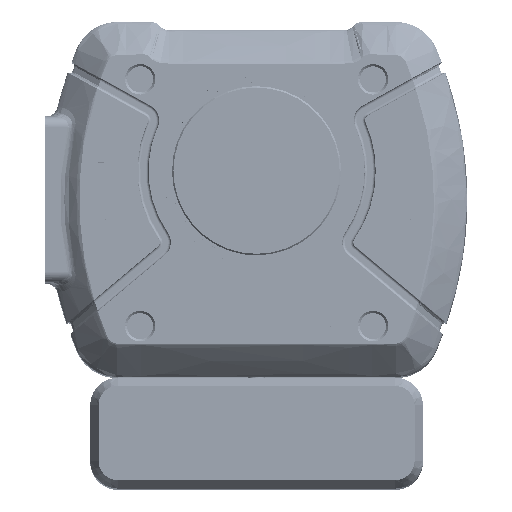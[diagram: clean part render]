
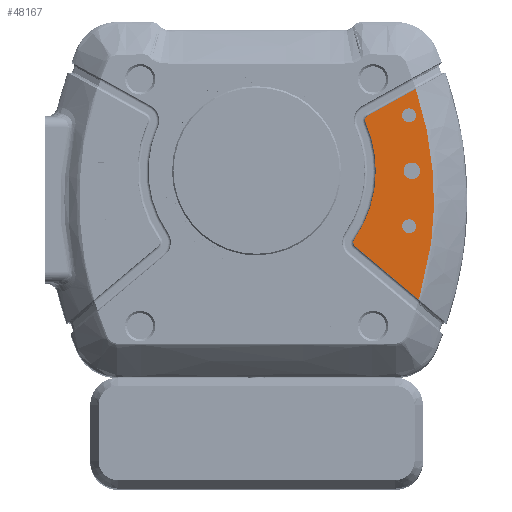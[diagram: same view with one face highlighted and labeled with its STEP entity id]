
A CAD part, top view. The second image highlights one B-rep face of the part: STEP entity #48167.
In plain terms, the highlighted planar face has unit normal (0, 0, 1).
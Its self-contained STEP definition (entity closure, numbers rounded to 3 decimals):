
#12314 = DIRECTION ( 'NONE',  ( 1., 0., 0. ) ) ;
#19365 = EDGE_CURVE ( 'NONE', #370967, #59314, #331686, .T. ) ;
#24546 = CARTESIAN_POINT ( 'NONE',  ( 21.5, 0., 13.007 ) ) ;
#34387 = VERTEX_POINT ( 'NONE', #141833 ) ;
#38254 = DIRECTION ( 'NONE',  ( 0., 0., 1. ) ) ;
#38704 = DIRECTION ( 'NONE',  ( 1., 0., 0. ) ) ;
#44936 = CARTESIAN_POINT ( 'NONE',  ( 29.285, -23.267, 13.007 ) ) ;
#45365 = PLANE ( 'NONE',  #227824 ) ;
#46050 = DIRECTION ( 'NONE',  ( 0., 0., 1. ) ) ;
#48167 = ADVANCED_FACE ( 'NONE', ( #79063, #182442, #394380, #223016 ), #45365, .T. ) ;
#48726 = CARTESIAN_POINT ( 'NONE',  ( 18.453, -12.873, 13.007 ) ) ;
#48976 = CIRCLE ( 'NONE', #386894, 1. ) ;
#52347 = EDGE_LOOP ( 'NONE', ( #193371, #180342 ) ) ;
#52464 = ORIENTED_EDGE ( 'NONE', *, *, #268177, .F. ) ;
#54133 = CARTESIAN_POINT ( 'NONE',  ( 0., -5.16, 13.007 ) ) ;
#55309 = AXIS2_PLACEMENT_3D ( 'NONE', #247569, #38254, #281384 ) ;
#56147 = ORIENTED_EDGE ( 'NONE', *, *, #394629, .T. ) ;
#59314 = VERTEX_POINT ( 'NONE', #151709 ) ;
#59500 = EDGE_CURVE ( 'NONE', #174583, #370967, #378997, .T. ) ;
#63692 = ORIENTED_EDGE ( 'NONE', *, *, #339501, .T. ) ;
#63991 = AXIS2_PLACEMENT_3D ( 'NONE', #281950, #345214, #209882 ) ;
#72188 = DIRECTION ( 'NONE',  ( 0.875, 0.485, 0. ) ) ;
#72441 = VERTEX_POINT ( 'NONE', #444518 ) ;
#79063 = FACE_BOUND ( 'NONE', #52347, .T. ) ;
#81231 = DIRECTION ( 'NONE',  ( 0., 0., 1. ) ) ;
#88441 = EDGE_CURVE ( 'NONE', #326863, #311705, #111945, .T. ) ;
#101220 = VERTEX_POINT ( 'NONE', #333342 ) ;
#108261 = CARTESIAN_POINT ( 'NONE',  ( 20.086, 9.99, 13.007 ) ) ;
#109052 = CARTESIAN_POINT ( 'NONE',  ( 28.75, 10., 13.007 ) ) ;
#109652 = VECTOR ( 'NONE', #320103, 1000. ) ;
#111945 = CIRCLE ( 'NONE', #421197, 1.25 ) ;
#116923 = DIRECTION ( 'NONE',  ( -1., 0., 0. ) ) ;
#118609 = EDGE_CURVE ( 'NONE', #161307, #34387, #286595, .T. ) ;
#124362 = DIRECTION ( 'NONE',  ( -1., 0., 0. ) ) ;
#141833 = CARTESIAN_POINT ( 'NONE',  ( 26.5, 0., 13.007 ) ) ;
#148237 = CARTESIAN_POINT ( 'NONE',  ( 30.803, 8.419, 13.007 ) ) ;
#151709 = CARTESIAN_POINT ( 'NONE',  ( 17.811, -13.639, 13.007 ) ) ;
#155179 = VERTEX_POINT ( 'NONE', #231480 ) ;
#157983 = AXIS2_PLACEMENT_3D ( 'NONE', #209742, #173542, #38704 ) ;
#161307 = VERTEX_POINT ( 'NONE', #294714 ) ;
#165921 = CARTESIAN_POINT ( 'NONE',  ( 20.571, 9.116, 13.007 ) ) ;
#168900 = CARTESIAN_POINT ( 'NONE',  ( -1.703, -2.087, 13.007 ) ) ;
#171336 = CIRCLE ( 'NONE', #423507, 1.5 ) ;
#171434 = EDGE_CURVE ( 'NONE', #311705, #326863, #368998, .T. ) ;
#171688 = DIRECTION ( 'NONE',  ( 0., 0., 1. ) ) ;
#173542 = DIRECTION ( 'NONE',  ( 0., 0., 1. ) ) ;
#174583 = VERTEX_POINT ( 'NONE', #24546 ) ;
#179558 = CIRCLE ( 'NONE', #157983, 1.25 ) ;
#180342 = ORIENTED_EDGE ( 'NONE', *, *, #202497, .F. ) ;
#182442 = FACE_BOUND ( 'NONE', #428911, .T. ) ;
#183170 = CARTESIAN_POINT ( 'NONE',  ( 28., 0., 13.007 ) ) ;
#186010 = AXIS2_PLACEMENT_3D ( 'NONE', #253015, #356665, #124362 ) ;
#191511 = EDGE_CURVE ( 'NONE', #402795, #101220, #378613, .T. ) ;
#193371 = ORIENTED_EDGE ( 'NONE', *, *, #304715, .F. ) ;
#202497 = EDGE_CURVE ( 'NONE', #155179, #72441, #179558, .T. ) ;
#203530 = EDGE_LOOP ( 'NONE', ( #444791, #52464 ) ) ;
#208296 = VERTEX_POINT ( 'NONE', #427294 ) ;
#209742 = CARTESIAN_POINT ( 'NONE',  ( 27.5, -10., 13.007 ) ) ;
#209882 = DIRECTION ( 'NONE',  ( 1., 0., 0. ) ) ;
#215409 = DIRECTION ( 'NONE',  ( 0., 0., 1. ) ) ;
#222578 = CARTESIAN_POINT ( 'NONE',  ( 32.089, -10.58, 13.007 ) ) ;
#223016 = FACE_OUTER_BOUND ( 'NONE', #306143, .T. ) ;
#227285 = CARTESIAN_POINT ( 'NONE',  ( 27.5, 10., 13.007 ) ) ;
#227824 = AXIS2_PLACEMENT_3D ( 'NONE', #54133, #81231, #430406 ) ;
#231480 = CARTESIAN_POINT ( 'NONE',  ( 26.25, -10., 13.007 ) ) ;
#243321 = ORIENTED_EDGE ( 'NONE', *, *, #407488, .T. ) ;
#247569 = CARTESIAN_POINT ( 'NONE',  ( 27.5, -10., 13.007 ) ) ;
#251418 = DIRECTION ( 'NONE',  ( 1., 0., 0. ) ) ;
#253015 = CARTESIAN_POINT ( 'NONE',  ( 0., 0., 13.007 ) ) ;
#254101 = ORIENTED_EDGE ( 'NONE', *, *, #59500, .T. ) ;
#268177 = EDGE_CURVE ( 'NONE', #34387, #161307, #171336, .T. ) ;
#268706 = CARTESIAN_POINT ( 'NONE',  ( 26.25, 10., 13.007 ) ) ;
#281384 = DIRECTION ( 'NONE',  ( 1., 0., 0. ) ) ;
#281950 = CARTESIAN_POINT ( 'NONE',  ( 28., 0., 13.007 ) ) ;
#286595 = CIRCLE ( 'NONE', #63991, 1.5 ) ;
#288046 = CARTESIAN_POINT ( 'NONE',  ( 28.711, 14.771, 13.007 ) ) ;
#294714 = CARTESIAN_POINT ( 'NONE',  ( 29.5, 0., 13.007 ) ) ;
#295231 = EDGE_CURVE ( 'NONE', #438139, #59314, #383191, .T. ) ;
#304715 = EDGE_CURVE ( 'NONE', #72441, #155179, #371648, .T. ) ;
#306143 = EDGE_LOOP ( 'NONE', ( #373057, #63692, #56147, #254101, #369635, #325856, #243321 ) ) ;
#309422 = CARTESIAN_POINT ( 'NONE',  ( 27.5, 10., 13.007 ) ) ;
#311705 = VERTEX_POINT ( 'NONE', #109052 ) ;
#319665 = CARTESIAN_POINT ( 'NONE',  ( 31.186, -16.917, 13.007 ) ) ;
#320103 = DIRECTION ( 'NONE',  ( -0.766, 0.643, 0. ) ) ;
#325856 = ORIENTED_EDGE ( 'NONE', *, *, #295231, .F. ) ;
#326383 = DIRECTION ( 'NONE',  ( 0., 0., -1. ) ) ;
#326863 = VERTEX_POINT ( 'NONE', #268706 ) ;
#328603 = CARTESIAN_POINT ( 'NONE',  ( 0., 0., 13.007 ) ) ;
#331686 = CIRCLE ( 'NONE', #389314, 1. ) ;
#333342 = CARTESIAN_POINT ( 'NONE',  ( 28.711, 14.771, 13.007 ) ) ;
#339501 = EDGE_CURVE ( 'NONE', #402795, #208296, #48976, .T. ) ;
#345214 = DIRECTION ( 'NONE',  ( 0., 0., 1. ) ) ;
#347610 = DIRECTION ( 'NONE',  ( 1., 0., 0. ) ) ;
#351995 = ORIENTED_EDGE ( 'NONE', *, *, #171434, .F. ) ;
#356665 = DIRECTION ( 'NONE',  ( 0., 0., -1. ) ) ;
#360675 = CARTESIAN_POINT ( 'NONE',  ( 29.285, -23.267, 13.007 ) ) ;
#361944 = AXIS2_PLACEMENT_3D ( 'NONE', #309422, #171688, #347610 ) ;
#368913 = DIRECTION ( 'NONE',  ( 0., 0., 1. ) ) ;
#368998 = CIRCLE ( 'NONE', #361944, 1.25 ) ;
#369635 = ORIENTED_EDGE ( 'NONE', *, *, #19365, .T. ) ;
#370967 = VERTEX_POINT ( 'NONE', #408772 ) ;
#371648 = CIRCLE ( 'NONE', #55309, 1.25 ) ;
#373057 = ORIENTED_EDGE ( 'NONE', *, *, #191511, .F. ) ;
#378613 = LINE ( 'NONE', #168900, #389382 ) ;
#378997 = CIRCLE ( 'NONE', #400584, 21.5 ) ;
#380429 = CIRCLE ( 'NONE', #186010, 21.5 ) ;
#383191 = LINE ( 'NONE', #417046, #109652 ) ;
#386894 = AXIS2_PLACEMENT_3D ( 'NONE', #165921, #368913, #402781 ) ;
#387890 = B_SPLINE_CURVE_WITH_KNOTS ( 'NONE', 3,
 ( #44936, #319665, #222578, #389439, #148237, #288046 ),
 .UNSPECIFIED., .F., .F.,
 ( 4, 2, 4 ),
 ( 0.134, 0.518, 0.903 ),
 .UNSPECIFIED. ) ;
#389314 = AXIS2_PLACEMENT_3D ( 'NONE', #48726, #215409, #251418 ) ;
#389382 = VECTOR ( 'NONE', #72188, 1000. ) ;
#389439 = CARTESIAN_POINT ( 'NONE',  ( 31.898, 2.078, 13.007 ) ) ;
#394204 = DIRECTION ( 'NONE',  ( 1., 0., 0. ) ) ;
#394380 = FACE_BOUND ( 'NONE', #203530, .T. ) ;
#394629 = EDGE_CURVE ( 'NONE', #208296, #174583, #380429, .T. ) ;
#400584 = AXIS2_PLACEMENT_3D ( 'NONE', #328603, #326383, #116923 ) ;
#402781 = DIRECTION ( 'NONE',  ( 1., 0., 0. ) ) ;
#402795 = VERTEX_POINT ( 'NONE', #108261 ) ;
#407488 = EDGE_CURVE ( 'NONE', #438139, #101220, #387890, .T. ) ;
#408772 = CARTESIAN_POINT ( 'NONE',  ( 17.633, -12.301, 13.007 ) ) ;
#417046 = CARTESIAN_POINT ( 'NONE',  ( 3.184, -1.366, 13.007 ) ) ;
#421197 = AXIS2_PLACEMENT_3D ( 'NONE', #227285, #427965, #394204 ) ;
#423507 = AXIS2_PLACEMENT_3D ( 'NONE', #183170, #46050, #12314 ) ;
#427294 = CARTESIAN_POINT ( 'NONE',  ( 19.656, 8.711, 13.007 ) ) ;
#427965 = DIRECTION ( 'NONE',  ( 0., 0., 1. ) ) ;
#428911 = EDGE_LOOP ( 'NONE', ( #351995, #441920 ) ) ;
#430406 = DIRECTION ( 'NONE',  ( 1., 0., 0. ) ) ;
#438139 = VERTEX_POINT ( 'NONE', #360675 ) ;
#441920 = ORIENTED_EDGE ( 'NONE', *, *, #88441, .F. ) ;
#444518 = CARTESIAN_POINT ( 'NONE',  ( 28.75, -10., 13.007 ) ) ;
#444791 = ORIENTED_EDGE ( 'NONE', *, *, #118609, .F. ) ;
